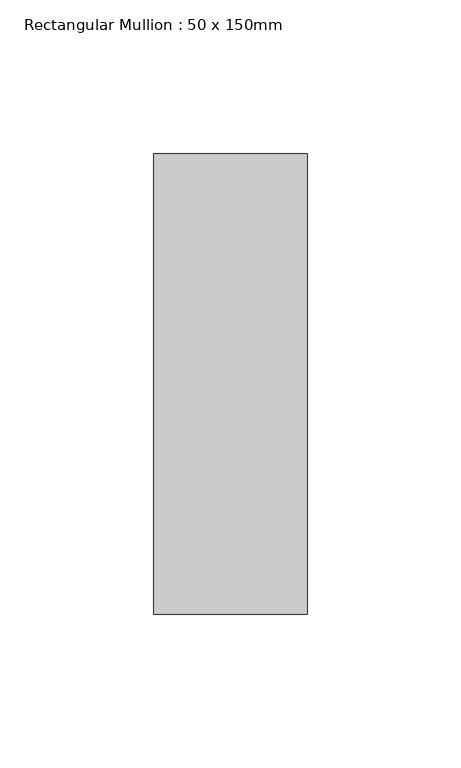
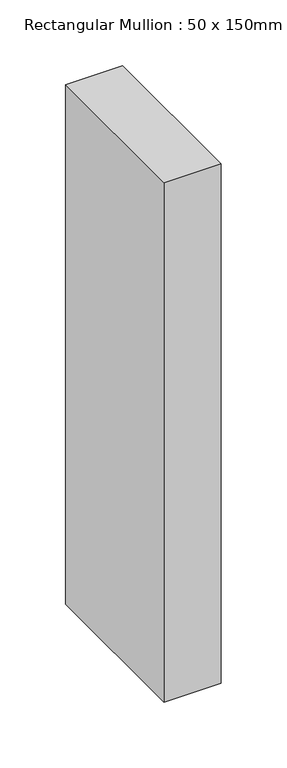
"""IFC4 building model written with IfcOpenShell, lengths in millimetres: member geometry, Rectangular Mullion : 50 x 150mm."""

from ifc_helpers import new_model, si_unit, frame, origin, place, context, project, spatial, polyline, outline, extrude, source, transform, mapped, element, save


def rectangular_mullion_50_x_150mm_ec0a15ed(model_context):
    return source(origin(), model_context, "Body", "SweptSolid", [
        extrude(outline(polyline([(25.0, 75.0), (25.0, -75.0), (-25.0, -75.0), (-25.0, 75.0), (25.0, 75.0)])), frame((0.0, 0.0, -482.2), z_axis=(0.0, 0.0, 1.0), x_axis=(1.0, 0.0, 0.0)), (0.0, 0.0, 1.0), 482.2),
    ])


if __name__ == "__main__":
    model = new_model("IFC4")
    model_context = context("Model", 3, world=origin())
    ifc_project = project(units=[si_unit("LENGTHUNIT", "METRE", prefix="MILLI")], contexts=[model_context])
    site = spatial("IfcSite", under=ifc_project)
    building = spatial("IfcBuilding", under=site)
    placement = place(None, origin())
    rectangular_mullion_50_x_150mm_shape = rectangular_mullion_50_x_150mm_ec0a15ed(model_context)
    element("IfcMember", 1, ObjectType="Rectangular Mullion : 50 x 150mm", at=placement, inside=building, context=model_context, shape_type="MappedRepresentation", body=[
        mapped(rectangular_mullion_50_x_150mm_shape, transform((0.0, 0.0, 0.0), x_axis=(1.0, 0.0, 0.0), y_axis=(0.0, 1.0, 0.0), z_axis=(0.0, 0.0, 1.0))),
    ])
    save(model, "model.ifc")
